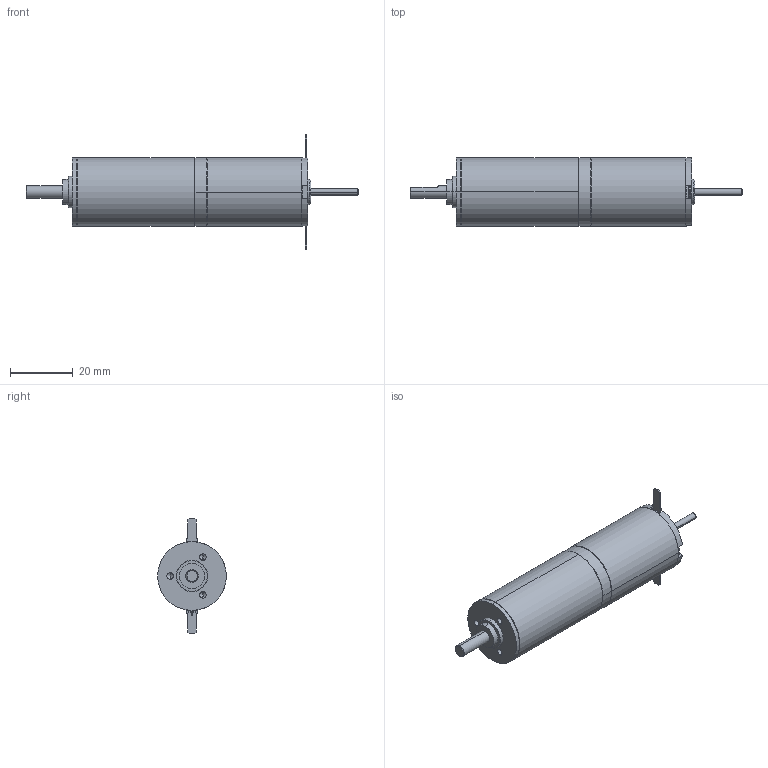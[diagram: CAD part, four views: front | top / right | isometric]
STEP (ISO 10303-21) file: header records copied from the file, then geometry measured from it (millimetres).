
FILE_DESCRIPTION (( 'STEP AP214' ), '1' );
FILE_NAME ('DCX22S_+_GP022C-3ETAGES.STEP', '2013-12-17T09:12:45', ( '' ), ( '' ), 'SwSTEP 2.0', 'SolidWorks 2013', '' );
FILE_SCHEMA (( 'AUTOMOTIVE_DESIGN' ));
Length unit declared in the file: millimetre
Products named in the file (3): DCX22S_+_GP022C-3ETAGES; GP022C_Etage 3; DCX22S GB KL
Assembly tree (2 placements, depth 2):
  DCX22S_+_GP022C-3ETAGES
    GP022C_Etage 3
    DCX22S GB KL
Bounding box: 106.2 x 22 x 36.9 mm (x, y, z)
Volume: 12269.2 mm3; surface area: 9269.7 mm2
Topology: 1 solids, 52 shells, 300 faces, 1041 edges, 773 vertices
Faces by surface type: plane 102, cylinder 100, cone 89, bspline 9
Entity records: 14873 total; most frequent: CARTESIAN_POINT 2688, DIRECTION 2088, ORIENTED_EDGE 1531, EDGE_CURVE 1035, AXIS2_PLACEMENT_3D 793, VERTEX_POINT 773, LINE 502, VECTOR 502
